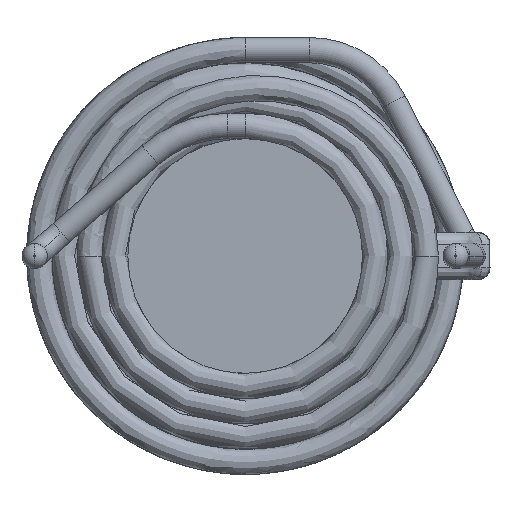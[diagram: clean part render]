
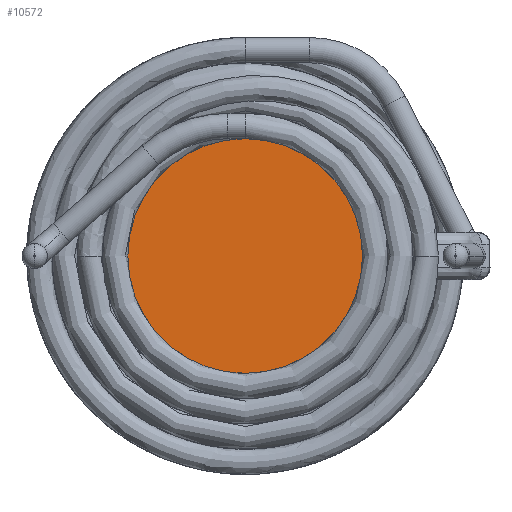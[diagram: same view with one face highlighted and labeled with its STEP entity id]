
A CAD part, front view. The second image highlights one B-rep face of the part: STEP entity #10572.
In plain terms, the highlighted planar face has unit normal (0, -1, 0).
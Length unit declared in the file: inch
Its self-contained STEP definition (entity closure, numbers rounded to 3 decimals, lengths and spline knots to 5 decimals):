
#200 = ORIENTED_EDGE ( 'NONE', *, *, #3631, .F. ) ;
#238 = ORIENTED_EDGE ( 'NONE', *, *, #4519, .F. ) ;
#2063 = CIRCLE ( 'NONE', #23808, 0.19528 ) ;
#3441 = DIRECTION ( 'NONE',  ( 0., 0., 1. ) ) ;
#3631 = EDGE_CURVE ( 'NONE', #23723, #21023, #2063, .T. ) ;
#4519 = EDGE_CURVE ( 'NONE', #21023, #23723, #6555, .T. ) ;
#4525 = AXIS2_PLACEMENT_3D ( 'NONE', #10081, #10870, #13221 ) ;
#6113 = EDGE_LOOP ( 'NONE', ( #238, #200 ) ) ;
#6555 = CIRCLE ( 'NONE', #15252, 0.19528 ) ;
#10081 = CARTESIAN_POINT ( 'NONE',  ( 0., 0., 0. ) ) ;
#10464 = PLANE ( 'NONE',  #4525 ) ;
#10572 = ADVANCED_FACE ( 'NONE', ( #22670 ), #10464, .F. ) ;
#10870 = DIRECTION ( 'NONE',  ( 0., 1., 0. ) ) ;
#13221 = DIRECTION ( 'NONE',  ( 0., 0., 1. ) ) ;
#14470 = CARTESIAN_POINT ( 'NONE',  ( 0., 0., -0.19528 ) ) ;
#15252 = AXIS2_PLACEMENT_3D ( 'NONE', #23825, #15571, #3441 ) ;
#15571 = DIRECTION ( 'NONE',  ( 0., 1., 0. ) ) ;
#15765 = CARTESIAN_POINT ( 'NONE',  ( 0., 0., 0.19528 ) ) ;
#16596 = CARTESIAN_POINT ( 'NONE',  ( 0., 0., 0. ) ) ;
#21023 = VERTEX_POINT ( 'NONE', #14470 ) ;
#22512 = DIRECTION ( 'NONE',  ( 0., 0., 1. ) ) ;
#22670 = FACE_OUTER_BOUND ( 'NONE', #6113, .T. ) ;
#22905 = DIRECTION ( 'NONE',  ( 0., 1., 0. ) ) ;
#23723 = VERTEX_POINT ( 'NONE', #15765 ) ;
#23808 = AXIS2_PLACEMENT_3D ( 'NONE', #16596, #22905, #22512 ) ;
#23825 = CARTESIAN_POINT ( 'NONE',  ( 0., 0., 0. ) ) ;
